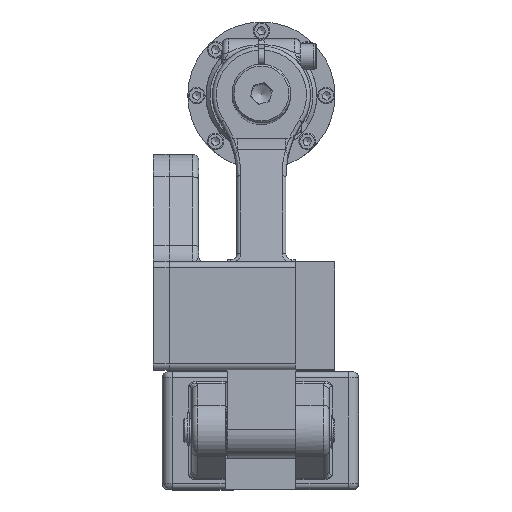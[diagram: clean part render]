
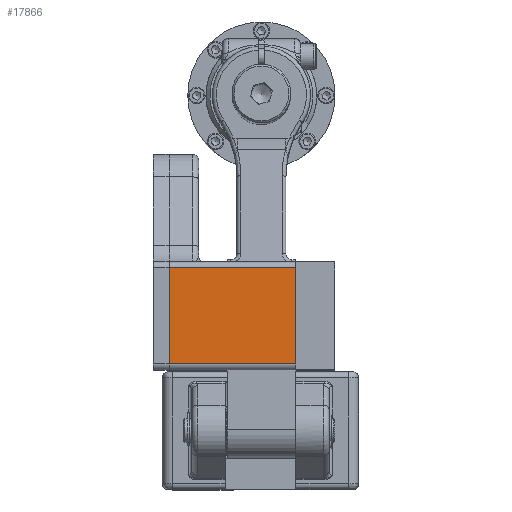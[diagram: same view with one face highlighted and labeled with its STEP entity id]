
A CAD part, top view. The second image highlights one B-rep face of the part: STEP entity #17866.
In plain terms, the highlighted planar face has unit normal (0, 0, 1).
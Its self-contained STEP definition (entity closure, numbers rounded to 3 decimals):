
#1062=PLANE('',#19368);
#1752=FACE_OUTER_BOUND('',#2779,.T.);
#2779=EDGE_LOOP('',(#13745,#13746,#13747,#13748));
#4033=LINE('',#29164,#5326);
#4034=LINE('',#29166,#5327);
#4035=LINE('',#29168,#5328);
#4036=LINE('',#29169,#5329);
#5326=VECTOR('',#22990,10.);
#5327=VECTOR('',#22991,10.);
#5328=VECTOR('',#22992,10.);
#5329=VECTOR('',#22993,10.);
#7849=VERTEX_POINT('',#29162);
#7850=VERTEX_POINT('',#29163);
#7851=VERTEX_POINT('',#29165);
#7852=VERTEX_POINT('',#29167);
#9977=EDGE_CURVE('',#7849,#7850,#4033,.T.);
#9978=EDGE_CURVE('',#7851,#7849,#4034,.T.);
#9979=EDGE_CURVE('',#7852,#7851,#4035,.T.);
#9980=EDGE_CURVE('',#7850,#7852,#4036,.T.);
#13745=ORIENTED_EDGE('',*,*,#9977,.F.);
#13746=ORIENTED_EDGE('',*,*,#9978,.F.);
#13747=ORIENTED_EDGE('',*,*,#9979,.F.);
#13748=ORIENTED_EDGE('',*,*,#9980,.F.);
#17866=ADVANCED_FACE('',(#1752),#1062,.T.);
#19368=AXIS2_PLACEMENT_3D('',#29161,#22988,#22989);
#22988=DIRECTION('center_axis',(0.,0.,1.));
#22989=DIRECTION('ref_axis',(1.,0.,0.));
#22990=DIRECTION('',(-1.,0.,0.));
#22991=DIRECTION('',(0.,-1.,0.));
#22992=DIRECTION('',(1.,0.,0.));
#22993=DIRECTION('',(0.,1.,0.));
#29161=CARTESIAN_POINT('Origin',(24.449,47.199,90.));
#29162=CARTESIAN_POINT('',(64.5,3.,90.));
#29163=CARTESIAN_POINT('',(0.,3.,90.));
#29164=CARTESIAN_POINT('',(44.475,3.,90.));
#29165=CARTESIAN_POINT('',(64.5,52.,90.));
#29166=CARTESIAN_POINT('',(64.5,0.,90.));
#29167=CARTESIAN_POINT('',(0.,52.,90.));
#29168=CARTESIAN_POINT('',(19.725,52.,90.));
#29169=CARTESIAN_POINT('',(0.,110.,90.));
